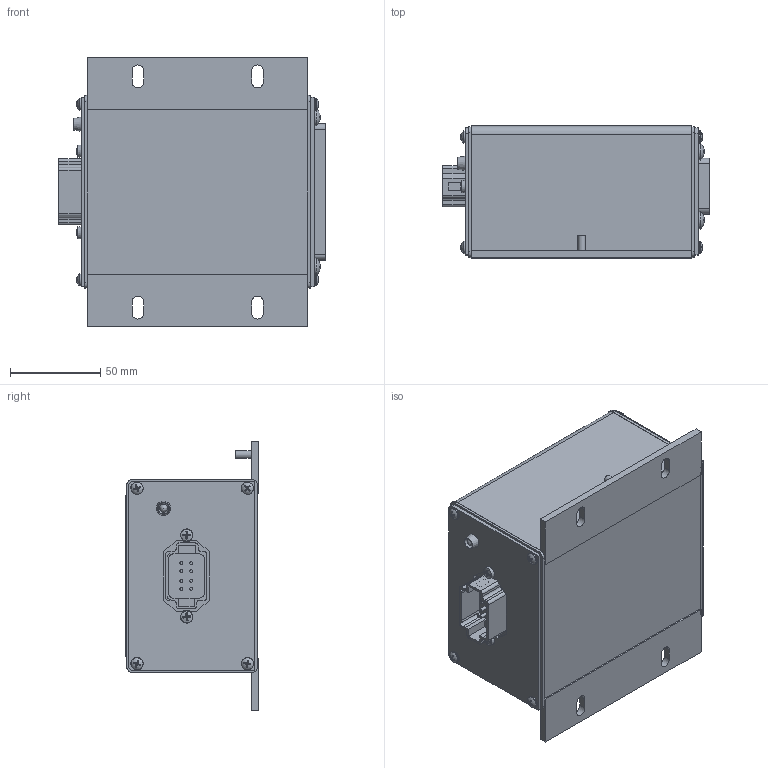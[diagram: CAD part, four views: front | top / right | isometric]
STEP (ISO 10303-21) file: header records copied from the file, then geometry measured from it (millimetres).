
FILE_DESCRIPTION(/* description */ (''),/* implementation_level */ '2;1');
FILE_NAME(/* name */ 'S:\Projects\DIO128, AXDIO128, Proj#11125\UNIT ASSEMBLY\RELEASED\A\AXDIO128-A.stp',/* time_stamp */ '2016-08-18T12:29:15-04:00',/* author */ ('tfisher'),/* organization */ (''),/* preprocessor_version */ 'ST-DEVELOPER v15.2',/* originating_system */ 'Autodesk Inventor 2014',/* authorisation */ '');
FILE_SCHEMA (('AUTOMOTIVE_DESIGN { 1 0 10303 214 3 1 1 }'));
Products named in the file (1): FG-AXDIO128 for STEP_Shrinkwrap_1
Bounding box: 147.35 x 73.25 x 149 mm (x, y, z)
Volume: 298412 mm3; surface area: 179349.5 mm2
Topology: 2 solids, 34 shells, 1756 faces, 4267 edges, 2777 vertices
Faces by surface type: plane 1047, cylinder 405, cone 169, torus 106, sphere 15, bspline 14
Full cylindrical faces by diameter (mm): 0.507 x6, 1.575 x196, 2.54 x2, 2.642 x8, 3.302 x5, 3.505 x12, 3.962 x10, 4 x3, 4.064 x9, 4.14 x2, 4.166 x1, 4.211 x1, 4.572 x2, 4.75 x1, 4.826 x7, 5.359 x4, 5.992 x2, 6.096 x1, 6.502 x4, 6.528 x3, 6.655 x4, 6.858 x9, 8.077 x2, 9.474 x4
Entity records: 52448 total; most frequent: CARTESIAN_POINT 12816, DIRECTION 7944, ORIENTED_EDGE 7514, EDGE_CURVE 3749, AXIS2_PLACEMENT_3D 2982, VERTEX_POINT 2640, EDGE_LOOP 2403, LINE 1980
